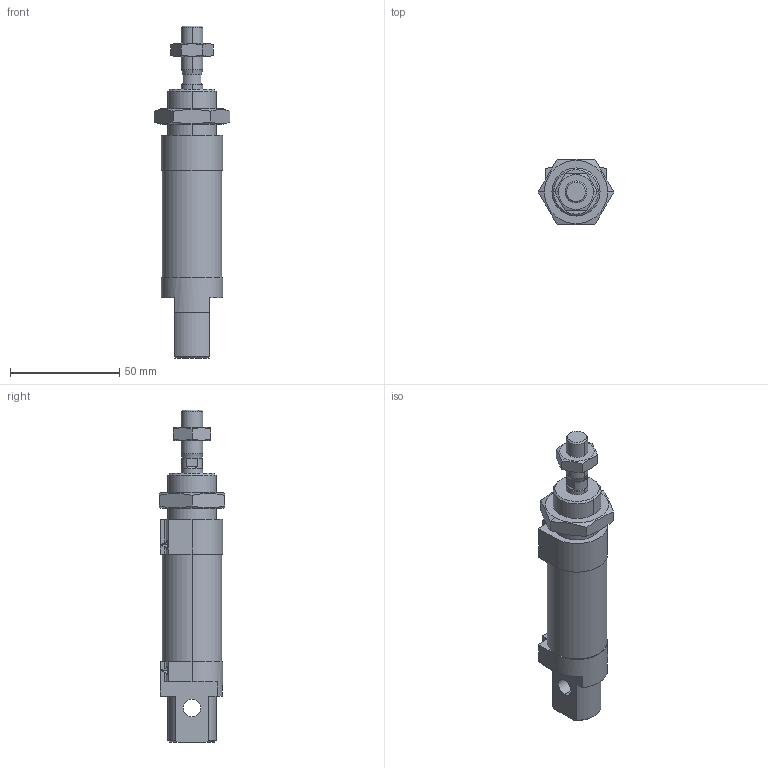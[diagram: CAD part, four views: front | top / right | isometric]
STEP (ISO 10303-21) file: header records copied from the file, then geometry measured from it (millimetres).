
FILE_DESCRIPTION((''),'2;1');
FILE_NAME('5226734100_ASM','2015-04-21T',('vol1hc'),(''),'PRO/ENGINEER BY PARAMETRIC TECHNOLOGY CORPORATION, 2009380','PRO/ENGINEER BY PARAMETRIC TECHNOLOGY CORPORATION, 2009380','');
FILE_SCHEMA(('CONFIG_CONTROL_DESIGN'));
Length unit declared in the file: millimetre
Products named in the file (5): 5226734100-A; 5226734100-B; 5226734100-C; 5226734100-D; 5226734100_ASM
Assembly tree (4 placements, depth 2):
  5226734100_ASM
    5226734100-A
    5226734100-B
    5226734100-C
    5226734100-D
Bounding box: 34.64 x 30 x 152 mm (x, y, z)
Volume: 63413.6 mm3; surface area: 27616.5 mm2
Topology: 4 solids, 4 shells, 154 faces, 362 edges, 226 vertices
Faces by surface type: plane 66, cylinder 48, cone 38, torus 2
Entity records: 5102 total; most frequent: CARTESIAN_POINT 1387, DIRECTION 786, ORIENTED_EDGE 724, EDGE_CURVE 362, AXIS2_PLACEMENT_3D 305, VERTEX_POINT 226, VECTOR 176, LINE 176
